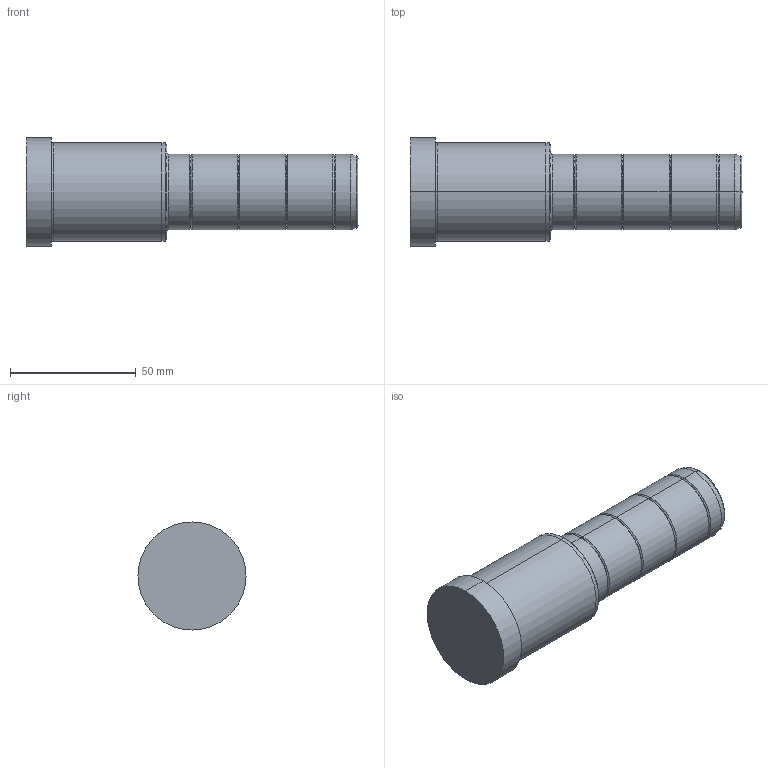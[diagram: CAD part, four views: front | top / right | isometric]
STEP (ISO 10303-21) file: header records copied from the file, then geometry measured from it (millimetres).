
FILE_DESCRIPTION( ( 'STEP AP203' ), '1' );
FILE_NAME( 'C:/Projects/D02 - 30x56x76.step', '2002-12-31T22:49:24', ( ' ' ), ( ' ' ), 'XStep 1.0', ' ', ' ' );
FILE_SCHEMA( ( 'CONFIG_CONTROL_DESIGN' ) );
Length unit declared in the file: metre
Products named in the file (1): 1
Bounding box: 132 x 43 x 43 mm (x, y, z)
Volume: 122969.5 mm3; surface area: 17113.6 mm2
Topology: 1 solids, 1 shells, 48 faces, 94 edges, 52 vertices
Faces by surface type: bspline 26, revolution 22
Entity records: 1523 total; most frequent: CARTESIAN_POINT 617, ORIENTED_EDGE 188, DIRECTION 150, EDGE_CURVE 94, AXIS2_PLACEMENT_3D 53, EDGE_LOOP 52, VERTEX_POINT 52, CIRCLE 52
